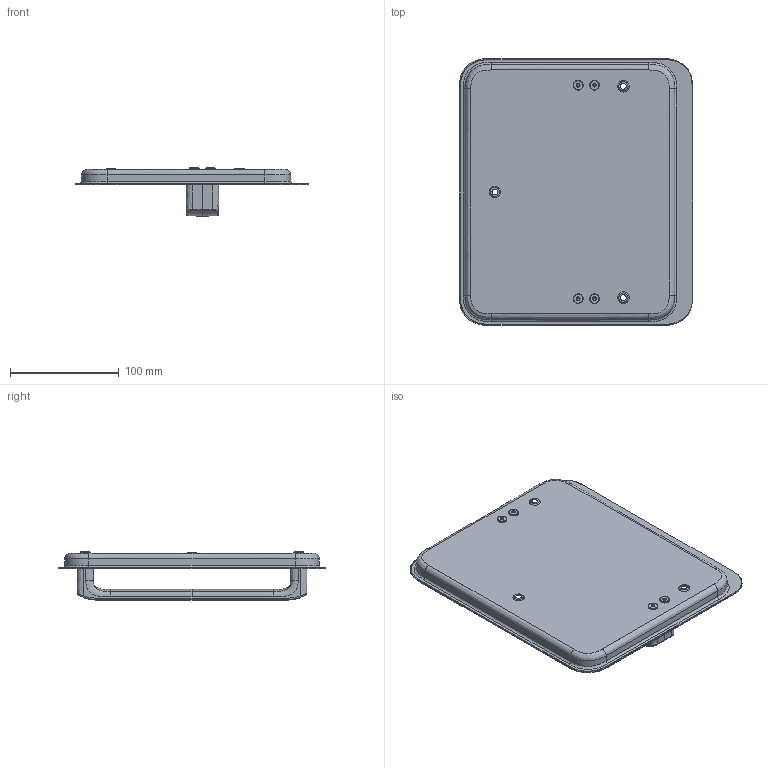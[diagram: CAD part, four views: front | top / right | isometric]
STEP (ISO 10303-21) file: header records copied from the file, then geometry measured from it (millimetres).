
FILE_DESCRIPTION(/* description */ (''),/* implementation_level */ '2;1');
FILE_NAME(/* name */ 'C:\ADSK_DMS_WS\Designs\Vorschläge\Loc Schalen\Heusser Muschel\Heusser-Muschel mit D6\Heusser-Muschel S9.13 mit D6\S9.13.D6.0L.stp',/* time_stamp */ '2025-04-29T14:50:30+02:00',/* author */ ('gm'),/* organization */ (''),/* preprocessor_version */ 'ST-DEVELOPER v17.2',/* originating_system */ 'Autodesk Inventor 2019',/* authorisation */ '');
FILE_SCHEMA (('AUTOMOTIVE_DESIGN { 1 0 10303 214 3 1 1 }'));
Length unit declared in the file: millimetre
Products named in the file (1): S9.13.D6.0L
Bounding box: 214 x 245 x 44.5 mm (x, y, z)
Volume: 141842.4 mm3; surface area: 140877.8 mm2
Topology: 1 solids, 9 shells, 395 faces, 1029 edges, 667 vertices
Faces by surface type: bspline 148, plane 129, cylinder 64, cone 50, torus 4
Full cylindrical faces by diameter (mm): 4.134 x4, 5 x4, 5.5 x4, 9 x4
Entity records: 24363 total; most frequent: CARTESIAN_POINT 15390, ORIENTED_EDGE 2042, DIRECTION 1233, EDGE_CURVE 1021, VERTEX_POINT 667, LINE 473, VECTOR 473, EDGE_LOOP 434
